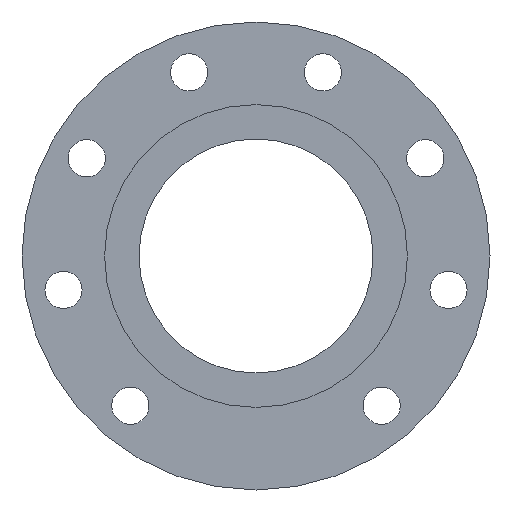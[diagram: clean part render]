
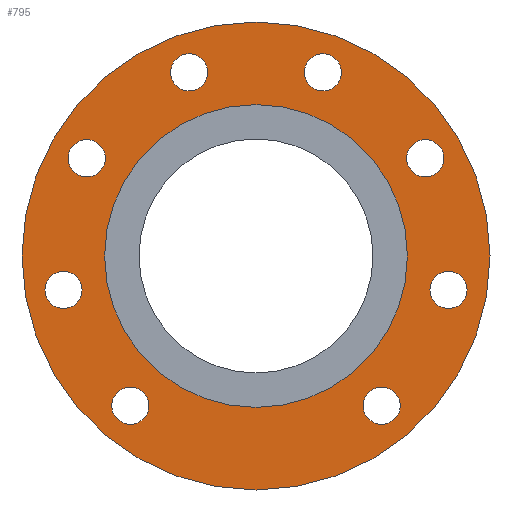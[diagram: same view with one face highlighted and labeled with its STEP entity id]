
A CAD part, left-side view. The second image highlights one B-rep face of the part: STEP entity #795.
In plain terms, the highlighted planar face has unit normal (-1, 0, 0).
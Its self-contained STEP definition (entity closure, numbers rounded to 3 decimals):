
#377=CARTESIAN_POINT('',(-17.5,0.0,-85.));
#378=VERTEX_POINT('',#377);
#379=CARTESIAN_POINT('',(-17.5,0.0,0.0));
#380=DIRECTION('',(1.0,0.0,0.0));
#381=DIRECTION('',(0.0,0.0,-1.0));
#382=AXIS2_PLACEMENT_3D('',#379,#380,#381);
#383=CIRCLE('',#382,85.);
#384=EDGE_CURVE('',#378,#378,#383,.T.);
#418=CARTESIAN_POINT('',(-17.5,45.638,-47.639));
#419=VERTEX_POINT('',#418);
#420=CARTESIAN_POINT('',(-17.5,45.638,-54.389));
#421=DIRECTION('',(1.0,0.0,0.0));
#422=DIRECTION('',(0.0,0.0,-1.0));
#423=AXIS2_PLACEMENT_3D('',#420,#421,#422);
#424=CIRCLE('',#423,6.75);
#425=EDGE_CURVE('',#419,#419,#424,.T.);
#459=CARTESIAN_POINT('',(-17.5,69.921,-5.579));
#460=VERTEX_POINT('',#459);
#461=CARTESIAN_POINT('',(-17.5,69.921,-12.329));
#462=DIRECTION('',(1.0,0.0,0.0));
#463=DIRECTION('',(0.0,0.0,-1.0));
#464=AXIS2_PLACEMENT_3D('',#461,#462,#463);
#465=CIRCLE('',#464,6.75);
#466=EDGE_CURVE('',#460,#460,#465,.T.);
#500=CARTESIAN_POINT('',(-17.5,-69.921,-5.579));
#501=VERTEX_POINT('',#500);
#502=CARTESIAN_POINT('',(-17.5,-69.921,-12.329));
#503=DIRECTION('',(1.0,0.0,0.0));
#504=DIRECTION('',(0.0,0.0,-1.0));
#505=AXIS2_PLACEMENT_3D('',#502,#503,#504);
#506=CIRCLE('',#505,6.75);
#507=EDGE_CURVE('',#501,#501,#506,.T.);
#541=CARTESIAN_POINT('',(-17.5,24.283,73.468));
#542=VERTEX_POINT('',#541);
#543=CARTESIAN_POINT('',(-17.5,24.283,66.718));
#544=DIRECTION('',(1.0,0.0,0.0));
#545=DIRECTION('',(0.0,0.0,-1.0));
#546=AXIS2_PLACEMENT_3D('',#543,#544,#545);
#547=CIRCLE('',#546,6.75);
#548=EDGE_CURVE('',#542,#542,#547,.T.);
#582=CARTESIAN_POINT('',(-17.5,-45.638,-47.639));
#583=VERTEX_POINT('',#582);
#584=CARTESIAN_POINT('',(-17.5,-45.638,-54.389));
#585=DIRECTION('',(1.0,0.0,0.0));
#586=DIRECTION('',(0.0,0.0,-1.0));
#587=AXIS2_PLACEMENT_3D('',#584,#585,#586);
#588=CIRCLE('',#587,6.75);
#589=EDGE_CURVE('',#583,#583,#588,.T.);
#623=CARTESIAN_POINT('',(-17.5,61.488,42.25));
#624=VERTEX_POINT('',#623);
#625=CARTESIAN_POINT('',(-17.5,61.488,35.5));
#626=DIRECTION('',(1.0,0.0,0.0));
#627=DIRECTION('',(0.0,0.0,-1.0));
#628=AXIS2_PLACEMENT_3D('',#625,#626,#627);
#629=CIRCLE('',#628,6.75);
#630=EDGE_CURVE('',#624,#624,#629,.T.);
#664=CARTESIAN_POINT('',(-17.5,-24.283,73.468));
#665=VERTEX_POINT('',#664);
#666=CARTESIAN_POINT('',(-17.5,-24.283,66.718));
#667=DIRECTION('',(1.0,0.0,0.0));
#668=DIRECTION('',(0.0,0.0,-1.0));
#669=AXIS2_PLACEMENT_3D('',#666,#667,#668);
#670=CIRCLE('',#669,6.75);
#671=EDGE_CURVE('',#665,#665,#670,.T.);
#705=CARTESIAN_POINT('',(-17.5,-61.488,42.25));
#706=VERTEX_POINT('',#705);
#707=CARTESIAN_POINT('',(-17.5,-61.488,35.5));
#708=DIRECTION('',(1.0,0.0,0.0));
#709=DIRECTION('',(0.0,0.0,-1.0));
#710=AXIS2_PLACEMENT_3D('',#707,#708,#709);
#711=CIRCLE('',#710,6.75);
#712=EDGE_CURVE('',#706,#706,#711,.T.);
#745=CARTESIAN_POINT('',(-17.5,0.0,-55.0));
#746=VERTEX_POINT('',#745);
#747=CARTESIAN_POINT('',(-17.5,0.0,0.0));
#748=DIRECTION('',(1.0,0.0,0.0));
#749=DIRECTION('',(0.0,0.0,-1.0));
#750=AXIS2_PLACEMENT_3D('',#747,#748,#749);
#751=CIRCLE('',#750,55.0);
#752=EDGE_CURVE('',#746,#746,#751,.T.);
#760=CARTESIAN_POINT('',(-17.5,0.0,-70.));
#761=DIRECTION('',(-1.0,0.0,0.0));
#762=DIRECTION('',(0.0,0.0,1.0));
#763=AXIS2_PLACEMENT_3D('',#760,#761,#762);
#764=PLANE('',#763);
#765=ORIENTED_EDGE('',*,*,#384,.F.);
#766=EDGE_LOOP('',(#765));
#767=FACE_OUTER_BOUND('',#766,.T.);
#768=ORIENTED_EDGE('',*,*,#425,.T.);
#769=EDGE_LOOP('',(#768));
#770=FACE_BOUND('',#769,.T.);
#771=ORIENTED_EDGE('',*,*,#466,.T.);
#772=EDGE_LOOP('',(#771));
#773=FACE_BOUND('',#772,.T.);
#774=ORIENTED_EDGE('',*,*,#507,.T.);
#775=EDGE_LOOP('',(#774));
#776=FACE_BOUND('',#775,.T.);
#777=ORIENTED_EDGE('',*,*,#548,.T.);
#778=EDGE_LOOP('',(#777));
#779=FACE_BOUND('',#778,.T.);
#780=ORIENTED_EDGE('',*,*,#589,.T.);
#781=EDGE_LOOP('',(#780));
#782=FACE_BOUND('',#781,.T.);
#783=ORIENTED_EDGE('',*,*,#630,.T.);
#784=EDGE_LOOP('',(#783));
#785=FACE_BOUND('',#784,.T.);
#786=ORIENTED_EDGE('',*,*,#671,.T.);
#787=EDGE_LOOP('',(#786));
#788=FACE_BOUND('',#787,.T.);
#789=ORIENTED_EDGE('',*,*,#712,.T.);
#790=EDGE_LOOP('',(#789));
#791=FACE_BOUND('',#790,.T.);
#792=ORIENTED_EDGE('',*,*,#752,.T.);
#793=EDGE_LOOP('',(#792));
#794=FACE_BOUND('',#793,.T.);
#795=ADVANCED_FACE('',(#767,#770,#773,#776,#779,#782,#785,#788,#791,#794),#764,.T.);
